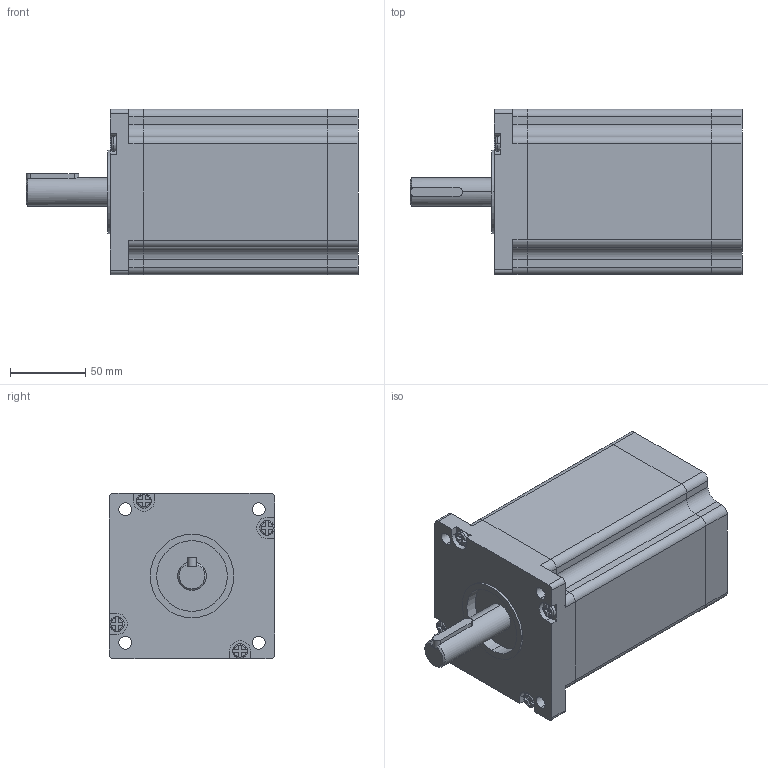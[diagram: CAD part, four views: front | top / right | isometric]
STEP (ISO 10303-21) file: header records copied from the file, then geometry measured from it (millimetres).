
FILE_DESCRIPTION (( 'STEP AP214' ), '1' );
FILE_NAME ('110J18165-460.STEP', '2016-10-15T03:34:52', ( 'User' ), ( 'china' ), 'SwSTEP 2.0', 'SolidWorks 2010', '' );
FILE_SCHEMA (( 'AUTOMOTIVE_DESIGN' ));
Length unit declared in the file: millimetre
Products named in the file (5): 110J18165-460; 菁釱; 瑩; 儂旯; 奻裔
Assembly tree (4 placements, depth 2):
  110J18165-460
    儂旯
    菁釱
    奻裔
    瑩
Bounding box: 221 x 110 x 110 mm (x, y, z)
Volume: 1800194.2 mm3; surface area: 143627.3 mm2
Topology: 4 solids, 4 shells, 216 faces, 584 edges, 380 vertices
Faces by surface type: plane 121, cylinder 83, torus 10, cone 2
Entity records: 8857 total; most frequent: CARTESIAN_POINT 1359, DIRECTION 1212, ORIENTED_EDGE 1168, EDGE_CURVE 584, AXIS2_PLACEMENT_3D 425, VERTEX_POINT 380, VECTOR 362, LINE 362
